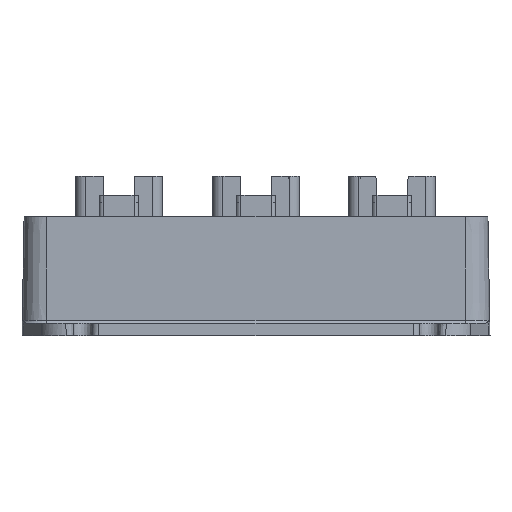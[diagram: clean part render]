
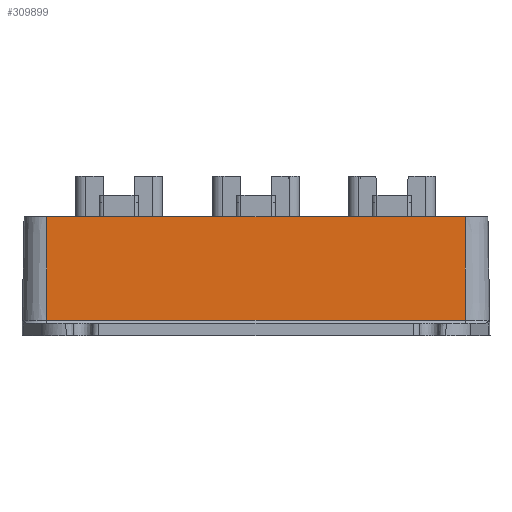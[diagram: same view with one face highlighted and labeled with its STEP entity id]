
A CAD part, left-side view. The second image highlights one B-rep face of the part: STEP entity #309899.
In plain terms, the highlighted planar face has unit normal (-1, 0, 0.018).
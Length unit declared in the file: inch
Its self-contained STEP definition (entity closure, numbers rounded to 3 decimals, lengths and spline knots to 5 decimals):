
#5395 = VECTOR ( 'NONE', #236846, 39.37008 ) ;
#11038 = CARTESIAN_POINT ( 'NONE',  ( 0.08942, 4.335, -0.20017 ) ) ;
#24232 = VECTOR ( 'NONE', #161716, 39.37008 ) ;
#32591 = VECTOR ( 'NONE', #209123, 39.37008 ) ;
#54662 = CARTESIAN_POINT ( 'NONE',  ( 0.11037, 4.335, 0.99983 ) ) ;
#58955 = CARTESIAN_POINT ( 'NONE',  ( 0.08942, 4.6975, -0.20017 ) ) ;
#62266 = EDGE_CURVE ( 'NONE', #250751, #172919, #285773, .T. ) ;
#63519 = VERTEX_POINT ( 'NONE', #116169 ) ;
#65030 = PLANE ( 'NONE',  #318574 ) ;
#87030 = ORIENTED_EDGE ( 'NONE', *, *, #62266, .F. ) ;
#87922 = VECTOR ( 'NONE', #239701, 39.37008 ) ;
#90299 = DIRECTION ( 'NONE',  ( 0.017, 0., 1. ) ) ;
#98168 = VERTEX_POINT ( 'NONE', #304136 ) ;
#112607 = EDGE_CURVE ( 'NONE', #172919, #98168, #131492, .T. ) ;
#116169 = CARTESIAN_POINT ( 'NONE',  ( 0.09214, 4.6975, -0.04447 ) ) ;
#119517 = ORIENTED_EDGE ( 'NONE', *, *, #112607, .F. ) ;
#129916 = CARTESIAN_POINT ( 'NONE',  ( 0.11037, 0.4725, 0.99983 ) ) ;
#131492 = LINE ( 'NONE', #212397, #32591 ) ;
#161716 = DIRECTION ( 'NONE',  ( -0.017, 0., -1. ) ) ;
#165622 = CARTESIAN_POINT ( 'NONE',  ( 0.11037, 4.6975, 0.99983 ) ) ;
#172919 = VERTEX_POINT ( 'NONE', #129916 ) ;
#188975 = CARTESIAN_POINT ( 'NONE',  ( 0.09214, 4.335, -0.04447 ) ) ;
#191593 = FACE_OUTER_BOUND ( 'NONE', #322498, .T. ) ;
#209123 = DIRECTION ( 'NONE',  ( -0.017, 0., -1. ) ) ;
#212397 = CARTESIAN_POINT ( 'NONE',  ( 0.08942, 0.4725, -0.20017 ) ) ;
#236846 = DIRECTION ( 'NONE',  ( 0., -1., 0. ) ) ;
#239701 = DIRECTION ( 'NONE',  ( 0., -1., 0. ) ) ;
#240644 = DIRECTION ( 'NONE',  ( -1., 0., 0.017 ) ) ;
#243819 = EDGE_CURVE ( 'NONE', #63519, #98168, #263334, .T. ) ;
#250751 = VERTEX_POINT ( 'NONE', #165622 ) ;
#263334 = LINE ( 'NONE', #188975, #87922 ) ;
#266432 = LINE ( 'NONE', #58955, #24232 ) ;
#272481 = ORIENTED_EDGE ( 'NONE', *, *, #243819, .T. ) ;
#276830 = ORIENTED_EDGE ( 'NONE', *, *, #285356, .T. ) ;
#285356 = EDGE_CURVE ( 'NONE', #250751, #63519, #266432, .T. ) ;
#285773 = LINE ( 'NONE', #54662, #5395 ) ;
#304136 = CARTESIAN_POINT ( 'NONE',  ( 0.09214, 0.4725, -0.04447 ) ) ;
#309899 = ADVANCED_FACE ( 'NONE', ( #191593 ), #65030, .T. ) ;
#318574 = AXIS2_PLACEMENT_3D ( 'NONE', #11038, #240644, #90299 ) ;
#322498 = EDGE_LOOP ( 'NONE', ( #276830, #272481, #119517, #87030 ) ) ;
